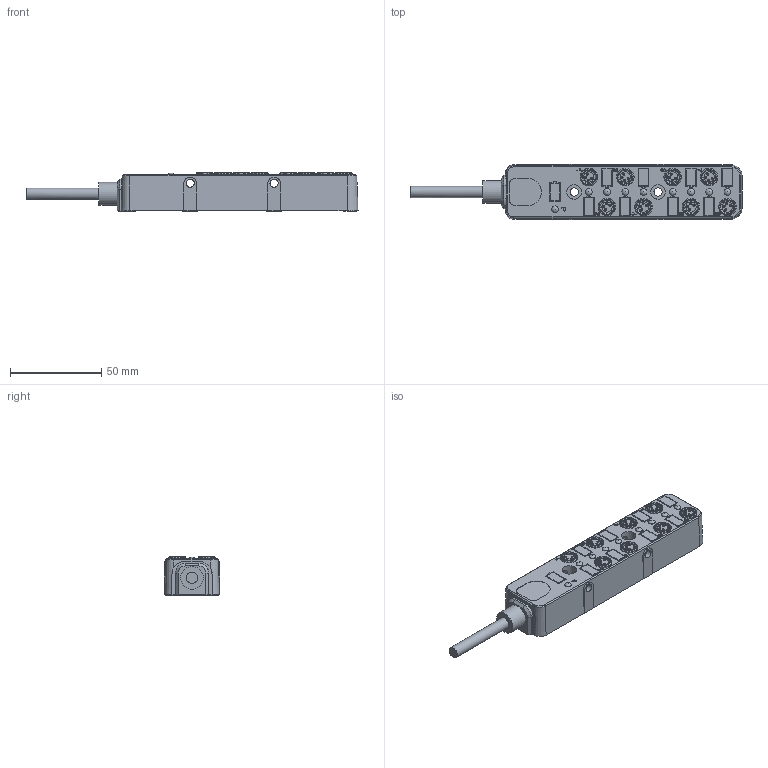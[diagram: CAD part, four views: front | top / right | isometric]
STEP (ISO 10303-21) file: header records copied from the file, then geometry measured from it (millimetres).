
FILE_DESCRIPTION(/* description */ (''),/* implementation_level */ '2;1');
FILE_NAME(/* name */ 'CAD_ESP8-8-3P-x_V1_stp.stp',/* time_stamp */ '2023-05-30T11:25:49+08:00',/* author */ (''),/* organization */ (''),/* preprocessor_version */ 'ST-DEVELOPER v16',/* originating_system */ 'SIEMENS PLM Software NX 10.0',/* authorisation */ '');
FILE_SCHEMA (('AP203_CONFIGURATION_CONTROLLED_3D_DESIGN_OF_MECHANICAL_PARTS_AND_ASSEMBLIES_MIM_LF { 1 0 10303 403 2 1 2}'));
Products named in the file (1): chan37F8B393g4mm
Bounding box: 181.99 x 30.4 x 21 mm (x, y, z)
Volume: 55008.3 mm3; surface area: 43503.2 mm2
Topology: 60 solids, 66 shells, 3822 faces, 10020 edges, 6694 vertices
Faces by surface type: plane 2875, cylinder 582, bspline 240, cone 103, torus 13, sphere 9
Full cylindrical faces by diameter (mm): 1.1 x32, 1.2 x32, 1.5 x96, 1.64 x32, 1.65 x32, 1.7 x64, 2.4 x3, 3.6 x9, 3.63 x9, 3.8 x27, 3.95 x9, 4.5 x6, 5.7 x8, 6 x9, 6.2 x1, 7 x8, 7.2 x8, 8 x2, 8.6 x8, 9.6 x24, 12.5 x2
Entity records: 133130 total; most frequent: CARTESIAN_POINT 43820, ORIENTED_EDGE 18380, DIRECTION 16594, EDGE_CURVE 9190, LINE 6746, VECTOR 6746, VERTEX_POINT 6428, AXIS2_PLACEMENT_3D 4924
